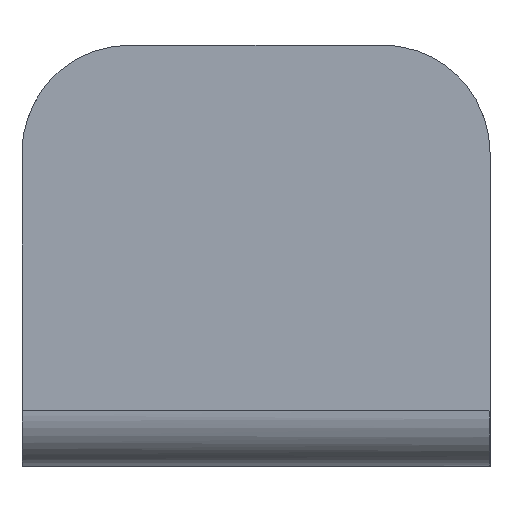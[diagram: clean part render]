
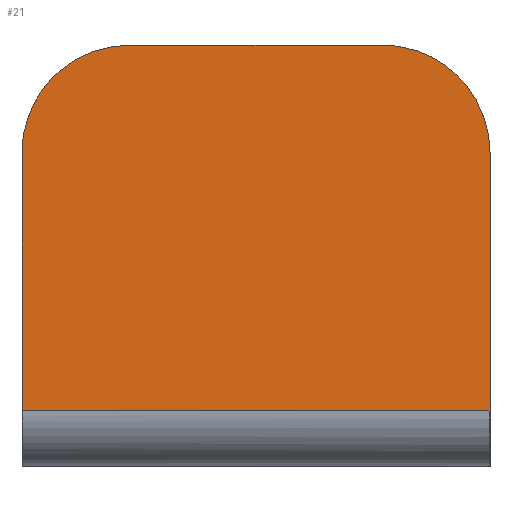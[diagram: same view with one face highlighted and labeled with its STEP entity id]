
A CAD part, top view. The second image highlights one B-rep face of the part: STEP entity #21.
In plain terms, the highlighted planar face has unit normal (0, 0, 1).
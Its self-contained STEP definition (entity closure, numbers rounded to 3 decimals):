
#21=ADVANCED_FACE('',(#94),#1020,.T.);
#94=FACE_OUTER_BOUND('',#167,.T.);
#167=EDGE_LOOP('',(#246,#247,#248,#249,#250,#251));
#246=ORIENTED_EDGE('',*,*,#615,.T.);
#247=ORIENTED_EDGE('',*,*,#613,.T.);
#248=ORIENTED_EDGE('',*,*,#571,.T.);
#249=ORIENTED_EDGE('',*,*,#564,.T.);
#250=ORIENTED_EDGE('',*,*,#572,.T.);
#251=ORIENTED_EDGE('',*,*,#566,.T.);
#564=EDGE_CURVE('',#894,#893,#743,.T.);
#566=EDGE_CURVE('',#896,#926,#745,.T.);
#571=EDGE_CURVE('',#892,#894,#727,.T.);
#572=EDGE_CURVE('',#893,#896,#728,.T.);
#613=EDGE_CURVE('',#925,#892,#790,.T.);
#615=EDGE_CURVE('',#926,#925,#792,.T.);
#727=(
BOUNDED_CURVE()
B_SPLINE_CURVE(2,(#1381,#1382,#1383),.UNSPECIFIED.,.F.,.F.)
B_SPLINE_CURVE_WITH_KNOTS((3,3),(0.,180.642),.UNSPECIFIED.)
CURVE()
GEOMETRIC_REPRESENTATION_ITEM()
RATIONAL_B_SPLINE_CURVE((1.,0.707,1.))
REPRESENTATION_ITEM('')
);
#728=(
BOUNDED_CURVE()
B_SPLINE_CURVE(2,(#1384,#1385,#1386),.UNSPECIFIED.,.F.,.F.)
B_SPLINE_CURVE_WITH_KNOTS((3,3),(0.,180.642),.UNSPECIFIED.)
CURVE()
GEOMETRIC_REPRESENTATION_ITEM()
RATIONAL_B_SPLINE_CURVE((1.,0.707,1.))
REPRESENTATION_ITEM('')
);
#743=B_SPLINE_CURVE_WITH_KNOTS('',1,(#1367,#1368),.UNSPECIFIED.,.F.,.F.,
(2,2),(921.096,1191.096),.UNSPECIFIED.);
#745=B_SPLINE_CURVE_WITH_KNOTS('',1,(#1371,#1372),.UNSPECIFIED.,.F.,.F.,
(2,2),(1384.321,1571.38),.UNSPECIFIED.);
#790=B_SPLINE_CURVE_WITH_KNOTS('',1,(#1511,#1512),.UNSPECIFIED.,.F.,.F.,
(2,2),(540.813,727.872),.UNSPECIFIED.);
#792=B_SPLINE_CURVE_WITH_KNOTS('',1,(#1515,#1516),.UNSPECIFIED.,.F.,.F.,
(2,2),(0.,500.),.UNSPECIFIED.);
#892=VERTEX_POINT('',#1276);
#893=VERTEX_POINT('',#1277);
#894=VERTEX_POINT('',#1278);
#896=VERTEX_POINT('',#1280);
#925=VERTEX_POINT('',#1309);
#926=VERTEX_POINT('',#1310);
#1020=PLANE('',#1097);
#1097=AXIS2_PLACEMENT_3D('',#1250,#1158,$);
#1158=DIRECTION('',(0.,0.,1.));
#1250=CARTESIAN_POINT('',(40033.626,-12798.639,450.));
#1276=CARTESIAN_POINT('',(40533.626,-12463.639,450.));
#1277=CARTESIAN_POINT('',(40148.626,-12348.639,450.));
#1278=CARTESIAN_POINT('',(40418.626,-12348.639,450.));
#1280=CARTESIAN_POINT('',(40033.626,-12463.639,450.));
#1309=CARTESIAN_POINT('',(40533.626,-12738.639,450.));
#1310=CARTESIAN_POINT('',(40033.626,-12738.639,450.));
#1367=CARTESIAN_POINT('',(40418.626,-12348.639,450.));
#1368=CARTESIAN_POINT('',(40148.626,-12348.639,450.));
#1371=CARTESIAN_POINT('',(40033.626,-12463.639,450.));
#1372=CARTESIAN_POINT('',(40033.626,-12738.639,450.));
#1381=CARTESIAN_POINT('',(40533.626,-12463.639,450.));
#1382=CARTESIAN_POINT('',(40533.626,-12348.639,450.));
#1383=CARTESIAN_POINT('',(40418.626,-12348.639,450.));
#1384=CARTESIAN_POINT('',(40148.626,-12348.639,450.));
#1385=CARTESIAN_POINT('',(40033.626,-12348.639,450.));
#1386=CARTESIAN_POINT('',(40033.626,-12463.639,450.));
#1511=CARTESIAN_POINT('',(40533.626,-12738.639,450.));
#1512=CARTESIAN_POINT('',(40533.626,-12463.639,450.));
#1515=CARTESIAN_POINT('',(40033.626,-12738.639,450.));
#1516=CARTESIAN_POINT('',(40533.626,-12738.639,450.));
